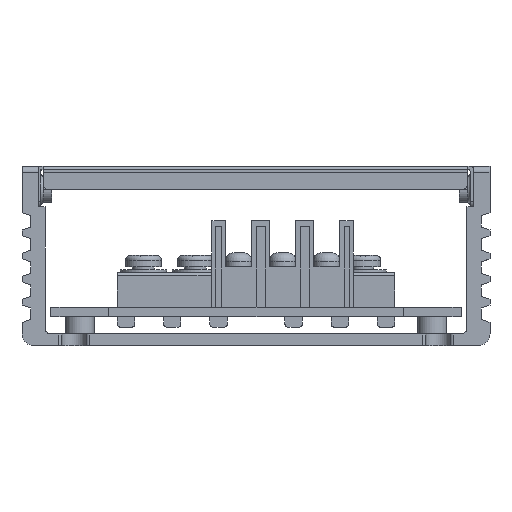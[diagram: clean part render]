
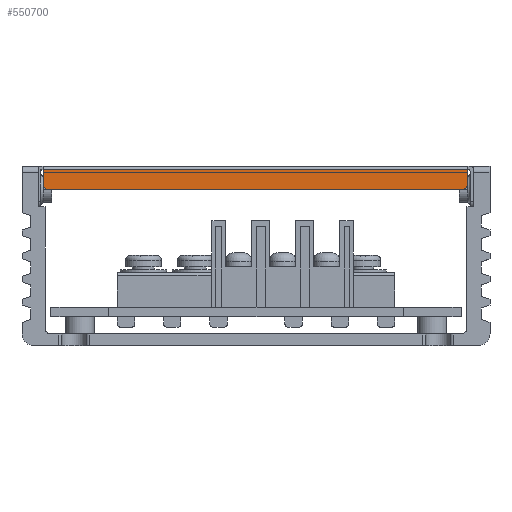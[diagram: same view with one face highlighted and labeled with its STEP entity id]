
A CAD part, front view. The second image highlights one B-rep face of the part: STEP entity #550700.
In plain terms, the highlighted planar face has unit normal (0, -1, 0).
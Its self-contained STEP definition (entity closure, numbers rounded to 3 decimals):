
#550010=CARTESIAN_POINT('',(25.473,63.41,206.));
#550020=VERTEX_POINT('',#550010);
#550050=CARTESIAN_POINT('',(26.473,63.41,206.));
#550060=DIRECTION('',(0.,1.,0.));
#550070=DIRECTION('',(-1.,0.,0.));
#550080=AXIS2_PLACEMENT_3D('',#550050,#550060,#550070);
#550090=CIRCLE('',#550080,1.);
#550100=CARTESIAN_POINT('',(26.473,63.41,205.));
#550110=VERTEX_POINT('',#550100);
#550120=EDGE_CURVE('',#550110,#550020,#550090,.T.);
#550230=CARTESIAN_POINT('',(81.873,63.41,209.));
#550240=DIRECTION('',(0.,-1.,0.));
#550250=DIRECTION('',(0.,0.,1.));
#550260=AXIS2_PLACEMENT_3D('',#550230,#550240,#550250);
#550270=PLANE('',#550260);
#550280=CARTESIAN_POINT('',(98.973,63.41,
179.792));
#550290=DIRECTION('',(0.,0.,1.));
#550300=VECTOR('',#550290,1.);
#550310=LINE('',#550280,#550300);
#550320=CARTESIAN_POINT('',(98.973,63.41,206.));
#550330=VERTEX_POINT('',#550320);
#550340=CARTESIAN_POINT('',(98.973,63.41,208.4));
#550350=VERTEX_POINT('',#550340);
#550360=EDGE_CURVE('',#550330,#550350,#550310,.T.);
#550370=ORIENTED_EDGE('',*,*,#550360,.T.);
#550380=CARTESIAN_POINT('',(97.973,63.41,206.));
#550390=DIRECTION('',(0.,-1.,0.));
#550400=DIRECTION('',(1.,0.,0.));
#550410=AXIS2_PLACEMENT_3D('',#550380,#550390,#550400);
#550420=CIRCLE('',#550410,1.);
#550430=CARTESIAN_POINT('',(97.973,63.41,205.));
#550440=VERTEX_POINT('',#550430);
#550450=EDGE_CURVE('',#550440,#550330,#550420,.T.);
#550460=ORIENTED_EDGE('',*,*,#550450,.T.);
#550470=CARTESIAN_POINT('',(80.451,63.41,205.));
#550480=DIRECTION('',(1.,0.,0.));
#550490=VECTOR('',#550480,1.);
#550500=LINE('',#550470,#550490);
#550510=EDGE_CURVE('',#550110,#550440,#550500,.T.);
#550520=ORIENTED_EDGE('',*,*,#550510,.T.);
#550530=ORIENTED_EDGE('',*,*,#550120,.F.);
#550540=CARTESIAN_POINT('',(25.473,63.41,
179.792));
#550550=DIRECTION('',(0.,0.,-1.));
#550560=VECTOR('',#550550,1.);
#550570=LINE('',#550540,#550560);
#550580=CARTESIAN_POINT('',(25.473,63.41,208.4));
#550590=VERTEX_POINT('',#550580);
#550600=EDGE_CURVE('',#550590,#550020,#550570,.T.);
#550610=ORIENTED_EDGE('',*,*,#550600,.T.);
#550620=CARTESIAN_POINT('',(98.973,63.41,208.4));
#550630=DIRECTION('',(-1.,0.,0.));
#550640=VECTOR('',#550630,1.);
#550650=LINE('',#550620,#550640);
#550660=EDGE_CURVE('',#550350,#550590,#550650,.T.);
#550670=ORIENTED_EDGE('',*,*,#550660,.T.);
#550680=EDGE_LOOP('',(#550670,#550610,#550530,#550520,#550460,#550370));
#550690=FACE_OUTER_BOUND('',#550680,.T.);
#550700=ADVANCED_FACE('',(#550690),#550270,.T.);
